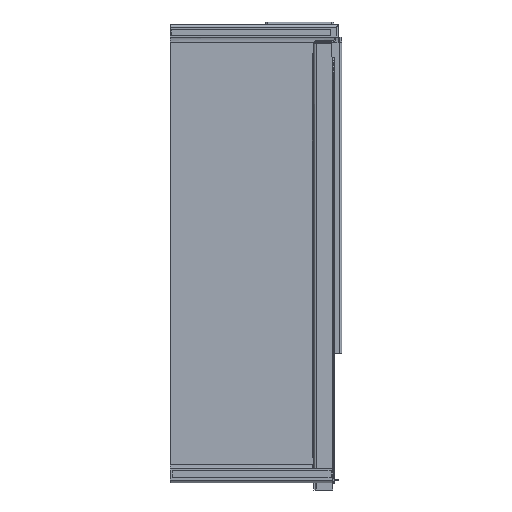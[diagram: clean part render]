
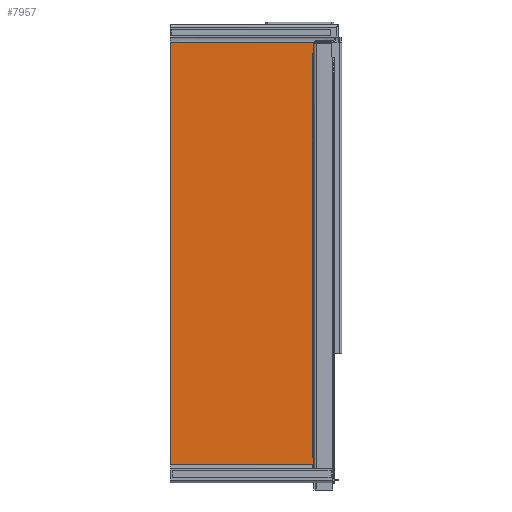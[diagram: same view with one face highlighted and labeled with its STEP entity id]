
A CAD part, left-side view. The second image highlights one B-rep face of the part: STEP entity #7957.
In plain terms, the highlighted planar face has unit normal (-1, 0, 0).
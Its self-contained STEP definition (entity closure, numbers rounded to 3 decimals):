
#365=DIRECTION('',(0.,0.,-1.));
#366=VECTOR('',#365,420.);
#367=CARTESIAN_POINT('',(-2.5,167.,210.));
#368=LINE('',#367,#366);
#377=DIRECTION('',(0.,-1.,0.));
#378=VECTOR('',#377,15.74);
#379=CARTESIAN_POINT('',(-2.5,21.24,171.5));
#380=LINE('',#379,#378);
#381=DIRECTION('',(0.,0.,-1.));
#382=VECTOR('',#381,26.);
#383=CARTESIAN_POINT('',(-2.5,21.24,197.5));
#384=LINE('',#383,#382);
#385=CARTESIAN_POINT('',(-2.5,23.625,197.5));
#386=DIRECTION('',(1.,0.,0.));
#387=DIRECTION('',(0.,1.,0.));
#388=AXIS2_PLACEMENT_3D('',#385,#386,#387);
#390=DIRECTION('',(0.,0.,1.));
#391=VECTOR('',#390,398.);
#392=CARTESIAN_POINT('',(-2.5,26.01,-200.5));
#393=LINE('',#392,#391);
#394=CARTESIAN_POINT('',(-2.5,23.625,-200.5));
#395=DIRECTION('',(1.,0.,0.));
#396=DIRECTION('',(0.,-0.891,-0.454));
#397=AXIS2_PLACEMENT_3D('',#394,#395,#396);
#399=DIRECTION('',(0.,0.,1.));
#400=VECTOR('',#399,8.417);
#401=CARTESIAN_POINT('',(-2.5,21.5,-210.));
#402=LINE('',#401,#400);
#403=DIRECTION('',(0.,1.,0.));
#404=VECTOR('',#403,1.);
#405=CARTESIAN_POINT('',(-2.5,21.5,-210.));
#406=LINE('',#405,#404);
#407=DIRECTION('',(0.,1.,0.));
#408=VECTOR('',#407,167.);
#409=CARTESIAN_POINT('',(-2.5,0.,210.));
#410=LINE('',#409,#408);
#411=CARTESIAN_POINT('',(-2.5,-2.7,195.25));
#412=DIRECTION('',(-1.,0.,0.));
#413=DIRECTION('',(0.,0.9,0.436));
#414=AXIS2_PLACEMENT_3D('',#411,#412,#413);
#416=DIRECTION('',(0.,0.,1.));
#417=VECTOR('',#416,17.5);
#418=CARTESIAN_POINT('',(-2.5,0.3,177.75));
#419=LINE('',#418,#417);
#420=CARTESIAN_POINT('',(-2.5,-2.7,177.75));
#421=DIRECTION('',(-1.,0.,0.));
#422=DIRECTION('',(0.,1.,0.));
#423=AXIS2_PLACEMENT_3D('',#420,#421,#422);
#425=CARTESIAN_POINT('',(-2.5,10.,166.476));
#426=DIRECTION('',(1.,0.,0.));
#427=DIRECTION('',(0.,-1.,0.));
#428=AXIS2_PLACEMENT_3D('',#425,#426,#427);
#430=CARTESIAN_POINT('',(-2.5,-20.5,140.597));
#431=DIRECTION('',(-1.,0.,0.));
#432=DIRECTION('',(0.,0.763,0.647));
#433=AXIS2_PLACEMENT_3D('',#430,#431,#432);
#435=DIRECTION('',(0.,0.,1.));
#436=VECTOR('',#435,15.937);
#437=CARTESIAN_POINT('',(-2.5,5.5,155.563));
#438=LINE('',#437,#436);
#439=DIRECTION('',(0.,0.,-1.));
#440=VECTOR('',#439,7.361);
#441=CARTESIAN_POINT('',(-2.5,24.25,207.775));
#442=LINE('',#441,#440);
#443=DIRECTION('',(0.,-1.,0.));
#444=VECTOR('',#443,1.25);
#445=CARTESIAN_POINT('',(-2.5,24.25,200.414));
#446=LINE('',#445,#444);
#447=DIRECTION('',(0.,0.,-1.));
#448=VECTOR('',#447,7.361);
#449=CARTESIAN_POINT('',(-2.5,23.,207.775));
#450=LINE('',#449,#448);
#451=DIRECTION('',(0.,-1.,0.));
#452=VECTOR('',#451,1.25);
#453=CARTESIAN_POINT('',(-2.5,24.25,207.775));
#454=LINE('',#453,#452);
#594=DIRECTION('',(0.,0.,-1.));
#595=VECTOR('',#594,9.966);
#596=CARTESIAN_POINT('',(-2.5,0.,176.442));
#597=LINE('',#596,#595);
#618=DIRECTION('',(0.,0.,-1.));
#619=VECTOR('',#618,13.442);
#620=CARTESIAN_POINT('',(-2.5,0.,210.));
#621=LINE('',#620,#619);
#1891=DIRECTION('',(0.,1.,0.));
#1892=VECTOR('',#1891,144.5);
#1893=CARTESIAN_POINT('',(-2.5,22.5,-210.));
#1894=LINE('',#1893,#1892);
#6245=CARTESIAN_POINT('',(-2.5,0.,210.));
#6247=VERTEX_POINT('',#6245);
#6248=CARTESIAN_POINT('',(-2.5,167.,210.));
#6249=CARTESIAN_POINT('',(-2.5,167.,-210.));
#6250=VERTEX_POINT('',#6248);
#6251=VERTEX_POINT('',#6249);
#6292=CARTESIAN_POINT('',(-2.5,0.,166.476));
#6293=CARTESIAN_POINT('',(-2.5,2.375,160.006));
#6294=VERTEX_POINT('',#6292);
#6295=VERTEX_POINT('',#6293);
#6302=CARTESIAN_POINT('',(-2.5,26.01,-200.5));
#6303=CARTESIAN_POINT('',(-2.5,26.01,197.5));
#6304=VERTEX_POINT('',#6302);
#6305=VERTEX_POINT('',#6303);
#6310=CARTESIAN_POINT('',(-2.5,21.24,197.5));
#6311=VERTEX_POINT('',#6310);
#6432=CARTESIAN_POINT('',(-2.5,22.5,-210.));
#6434=VERTEX_POINT('',#6432);
#6456=CARTESIAN_POINT('',(-2.5,0.,196.558));
#6457=CARTESIAN_POINT('',(-2.5,0.3,195.25));
#6458=VERTEX_POINT('',#6456);
#6459=VERTEX_POINT('',#6457);
#6460=CARTESIAN_POINT('',(-2.5,0.3,177.75));
#6461=CARTESIAN_POINT('',(-2.5,0.,176.442));
#6462=VERTEX_POINT('',#6460);
#6463=VERTEX_POINT('',#6461);
#6855=CARTESIAN_POINT('',(-2.5,24.25,207.775));
#6856=CARTESIAN_POINT('',(-2.5,24.25,200.414));
#6857=VERTEX_POINT('',#6855);
#6858=VERTEX_POINT('',#6856);
#6859=CARTESIAN_POINT('',(-2.5,23.,207.775));
#6860=CARTESIAN_POINT('',(-2.5,23.,200.414));
#6861=VERTEX_POINT('',#6859);
#6862=VERTEX_POINT('',#6860);
#7608=CARTESIAN_POINT('',(-2.5,21.24,171.5));
#7609=CARTESIAN_POINT('',(-2.5,5.5,171.5));
#7610=VERTEX_POINT('',#7608);
#7611=VERTEX_POINT('',#7609);
#7612=CARTESIAN_POINT('',(-2.5,5.5,155.563));
#7613=VERTEX_POINT('',#7612);
#7614=CARTESIAN_POINT('',(-2.5,21.5,-210.));
#7615=CARTESIAN_POINT('',(-2.5,21.5,-201.583));
#7616=VERTEX_POINT('',#7614);
#7617=VERTEX_POINT('',#7615);
#7906=CARTESIAN_POINT('',(-2.5,0.,210.));
#7907=DIRECTION('',(1.,0.,0.));
#7908=DIRECTION('',(0.,0.,-1.));
#7909=AXIS2_PLACEMENT_3D('',#7906,#7907,#7908);
#7910=PLANE('',#7909);
#7912=ORIENTED_EDGE('',*,*,#7911,.F.);
#7914=ORIENTED_EDGE('',*,*,#7913,.F.);
#7916=ORIENTED_EDGE('',*,*,#7915,.F.);
#7918=ORIENTED_EDGE('',*,*,#7917,.F.);
#7920=ORIENTED_EDGE('',*,*,#7919,.F.);
#7922=ORIENTED_EDGE('',*,*,#7921,.F.);
#7924=ORIENTED_EDGE('',*,*,#7923,.T.);
#7926=ORIENTED_EDGE('',*,*,#7925,.T.);
#7927=ORIENTED_EDGE('',*,*,#7896,.F.);
#7928=ORIENTED_EDGE('',*,*,#7809,.F.);
#7930=ORIENTED_EDGE('',*,*,#7929,.T.);
#7932=ORIENTED_EDGE('',*,*,#7931,.T.);
#7934=ORIENTED_EDGE('',*,*,#7933,.F.);
#7936=ORIENTED_EDGE('',*,*,#7935,.T.);
#7938=ORIENTED_EDGE('',*,*,#7937,.T.);
#7940=ORIENTED_EDGE('',*,*,#7939,.T.);
#7942=ORIENTED_EDGE('',*,*,#7941,.T.);
#7944=ORIENTED_EDGE('',*,*,#7943,.T.);
#7945=EDGE_LOOP('',(#7912,#7914,#7916,#7918,#7920,#7922,#7924,#7926,#7927,#7928,
#7930,#7932,#7934,#7936,#7938,#7940,#7942,#7944));
#7946=FACE_OUTER_BOUND('',#7945,.F.);
#7948=ORIENTED_EDGE('',*,*,#7947,.T.);
#7950=ORIENTED_EDGE('',*,*,#7949,.T.);
#7952=ORIENTED_EDGE('',*,*,#7951,.F.);
#7954=ORIENTED_EDGE('',*,*,#7953,.F.);
#7955=EDGE_LOOP('',(#7948,#7950,#7952,#7954));
#7956=FACE_BOUND('',#7955,.F.);
#389=CIRCLE('',#388,2.385);
#398=CIRCLE('',#397,2.385);
#415=CIRCLE('',#414,3.);
#424=CIRCLE('',#423,3.);
#429=CIRCLE('',#428,10.);
#434=CIRCLE('',#433,30.);
#7809=EDGE_CURVE('',#6247,#6250,#410,.T.);
#7896=EDGE_CURVE('',#6250,#6251,#368,.T.);
#7911=EDGE_CURVE('',#7610,#7611,#380,.T.);
#7913=EDGE_CURVE('',#6311,#7610,#384,.T.);
#7915=EDGE_CURVE('',#6305,#6311,#389,.T.);
#7917=EDGE_CURVE('',#6304,#6305,#393,.T.);
#7919=EDGE_CURVE('',#7617,#6304,#398,.T.);
#7921=EDGE_CURVE('',#7616,#7617,#402,.T.);
#7923=EDGE_CURVE('',#7616,#6434,#406,.T.);
#7925=EDGE_CURVE('',#6434,#6251,#1894,.T.);
#7929=EDGE_CURVE('',#6247,#6458,#621,.T.);
#7931=EDGE_CURVE('',#6458,#6459,#415,.T.);
#7933=EDGE_CURVE('',#6462,#6459,#419,.T.);
#7935=EDGE_CURVE('',#6462,#6463,#424,.T.);
#7937=EDGE_CURVE('',#6463,#6294,#597,.T.);
#7939=EDGE_CURVE('',#6294,#6295,#429,.T.);
#7941=EDGE_CURVE('',#6295,#7613,#434,.T.);
#7943=EDGE_CURVE('',#7613,#7611,#438,.T.);
#7947=EDGE_CURVE('',#6857,#6858,#442,.T.);
#7949=EDGE_CURVE('',#6858,#6862,#446,.T.);
#7951=EDGE_CURVE('',#6861,#6862,#450,.T.);
#7953=EDGE_CURVE('',#6857,#6861,#454,.T.);
#7957=ADVANCED_FACE('',(#7946,#7956),#7910,.F.);
